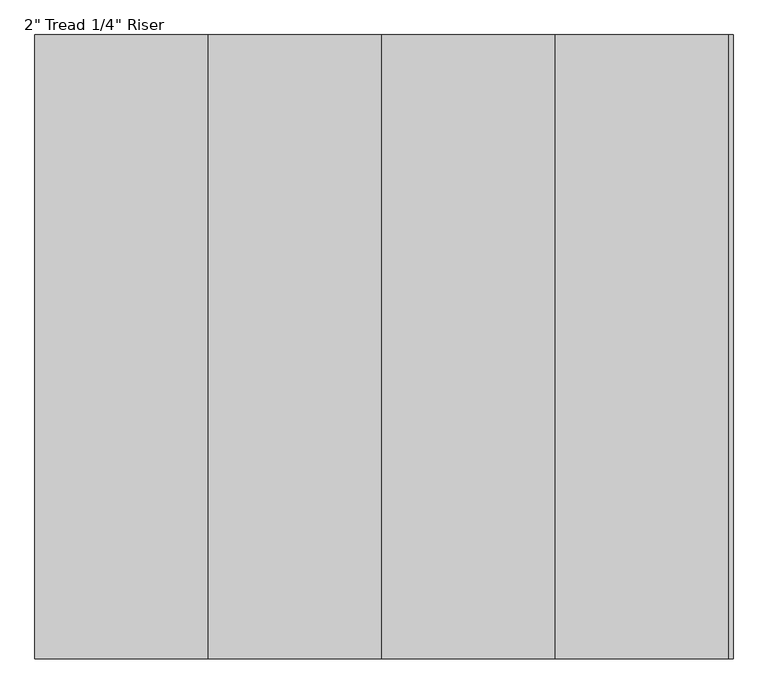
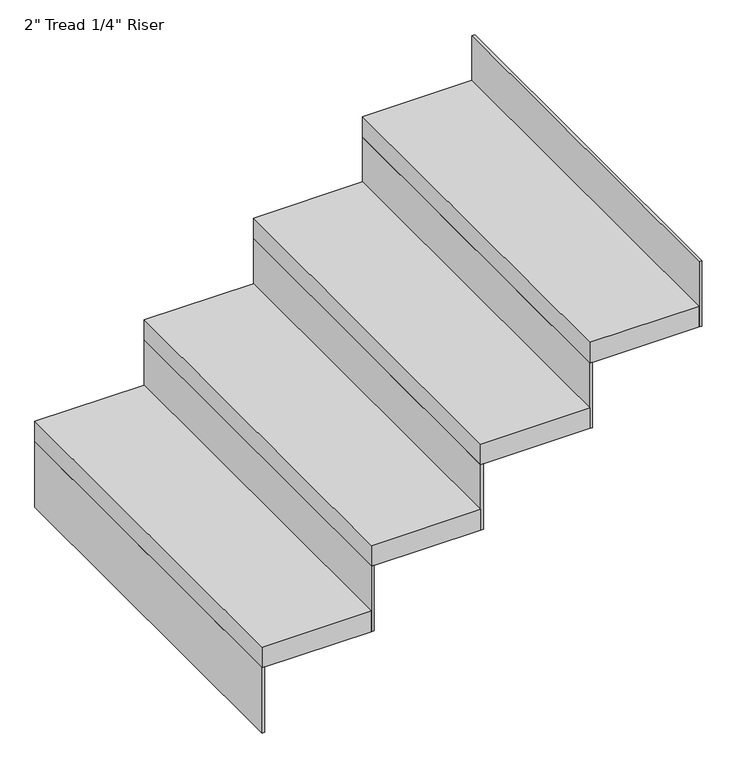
"""IFC4 building model written with IfcOpenShell, lengths in millimetres: stair flight geometry."""

from ifc_helpers import new_model, si_unit, frame, origin, place, context, project, spatial, polyline, outline, extrude, source, transform, mapped, element, save


def stair_flight_6512d4ac(model_context):
    return source(origin(), model_context, "Body", "SweptSolid", [
        extrude(outline(polyline([(114098.8884933, -35524.5173894), (114092.5384933, -35524.5173894), (114092.5384933, -34610.1173894), (114098.8884933, -34610.1173894), (114098.8884933, -35524.5173894)])), frame((0.0, 0.0, 2195.0947368), z_axis=(0.0, 0.0, 1.0), x_axis=(1.0, 0.0, 0.0)), (0.0, 0.0, 1.0), 160.4210526),
        extrude(outline(polyline([(114346.5384933, -34610.1173894), (114346.5384933, -35524.5173894), (114092.5384933, -35524.5173894), (114092.5384933, -34610.1173894), (114346.5384933, -34610.1173894)])), frame((0.0, 0.0, 2355.5157895), z_axis=(0.0, 0.0, 1.0), x_axis=(1.0, 0.0, 0.0)), (0.0, 0.0, 1.0), 50.8),
        extrude(outline(polyline([(114352.8884933, -35524.5173894), (114346.5384933, -35524.5173894), (114346.5384933, -34610.1173894), (114352.8884933, -34610.1173894), (114352.8884933, -35524.5173894)])), frame((0.0, 0.0, 2355.5157895), z_axis=(0.0, 0.0, 1.0), x_axis=(1.0, 0.0, 0.0)), (0.0, 0.0, 1.0), 160.4210526),
        extrude(outline(polyline([(114600.5384933, -34610.1173894), (114600.5384933, -35524.5173894), (114346.5384933, -35524.5173894), (114346.5384933, -34610.1173894), (114600.5384933, -34610.1173894)])), frame((0.0, 0.0, 2515.9368421), z_axis=(0.0, 0.0, 1.0), x_axis=(1.0, 0.0, 0.0)), (0.0, 0.0, 1.0), 50.8),
        extrude(outline(polyline([(114606.8884933, -35524.5173894), (114600.5384933, -35524.5173894), (114600.5384933, -34610.1173894), (114606.8884933, -34610.1173894), (114606.8884933, -35524.5173894)])), frame((0.0, 0.0, 2515.9368421), z_axis=(0.0, 0.0, 1.0), x_axis=(1.0, 0.0, 0.0)), (0.0, 0.0, 1.0), 160.4210526),
        extrude(outline(polyline([(114854.5384933, -34610.1173894), (114854.5384933, -35524.5173894), (114600.5384933, -35524.5173894), (114600.5384933, -34610.1173894), (114854.5384933, -34610.1173894)])), frame((0.0, 0.0, 2676.3578947), z_axis=(0.0, 0.0, 1.0), x_axis=(1.0, 0.0, 0.0)), (0.0, 0.0, 1.0), 50.8),
        extrude(outline(polyline([(114860.8884933, -35524.5173894), (114854.5384933, -35524.5173894), (114854.5384933, -34610.1173894), (114860.8884933, -34610.1173894), (114860.8884933, -35524.5173894)])), frame((0.0, 0.0, 2676.3578947), z_axis=(0.0, 0.0, 1.0), x_axis=(1.0, 0.0, 0.0)), (0.0, 0.0, 1.0), 160.4210526),
        extrude(outline(polyline([(115114.8884933, -35524.5173894), (115108.5384933, -35524.5173894), (115108.5384933, -34610.1173894), (115114.8884933, -34610.1173894), (115114.8884933, -35524.5173894)])), frame((0.0, 0.0, 2836.7789474), z_axis=(0.0, 0.0, 1.0), x_axis=(1.0, 0.0, 0.0)), (0.0, 0.0, 1.0), 160.4210526),
        extrude(outline(polyline([(115108.5384933, -34610.1173894), (115108.5384933, -35524.5173894), (114854.5384933, -35524.5173894), (114854.5384933, -34610.1173894), (115108.5384933, -34610.1173894)])), frame((0.0, 0.0, 2836.7789474), z_axis=(0.0, 0.0, 1.0), x_axis=(1.0, 0.0, 0.0)), (0.0, 0.0, 1.0), 50.8),
    ])


if __name__ == "__main__":
    model = new_model("IFC4")
    model_context = context("Model", 3, world=origin())
    ifc_project = project(units=[si_unit("LENGTHUNIT", "METRE", prefix="MILLI")], contexts=[model_context])
    site = spatial("IfcSite", under=ifc_project)
    building = spatial("IfcBuilding", under=site)
    placement = place(None, origin())
    stair_flight_shape = stair_flight_6512d4ac(model_context)
    element("IfcStairFlight", 1, ObjectType="2\" Tread 1/4\" Riser", at=placement, inside=building, context=model_context, shape_type="MappedRepresentation", body=[
        mapped(stair_flight_shape, transform((0.0, 0.0, 0.0), x_axis=(1.0, 0.0, 0.0), y_axis=(0.0, 1.0, 0.0), z_axis=(0.0, 0.0, 1.0))),
    ])
    save(model, "model.ifc")
